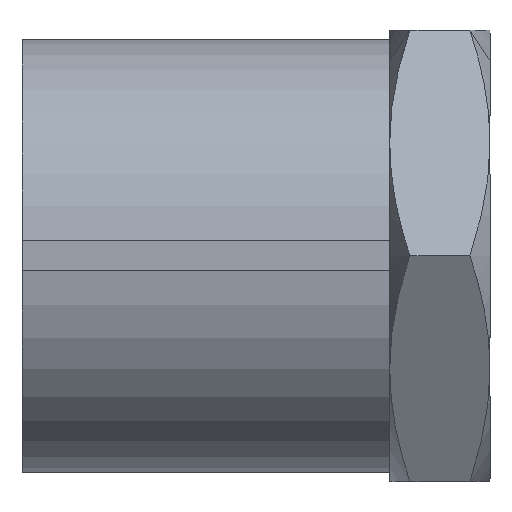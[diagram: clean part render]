
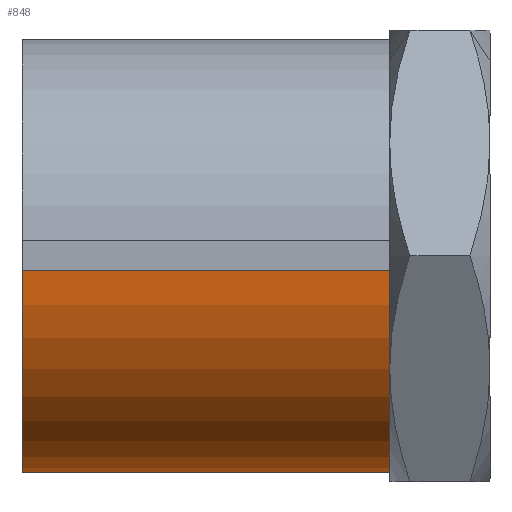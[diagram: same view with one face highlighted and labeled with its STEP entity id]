
A CAD part, top view. The second image highlights one B-rep face of the part: STEP entity #848.
In plain terms, the highlighted cylindrical face has radius 13 mm (diameter 26 mm), a partial arc.
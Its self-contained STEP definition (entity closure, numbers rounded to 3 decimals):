
#500=CARTESIAN_POINT('',(0.0,-0.9,12.969));
#501=VERTEX_POINT('',#500);
#502=CARTESIAN_POINT('',(-22.0,-0.9,12.969));
#503=VERTEX_POINT('',#502);
#504=CARTESIAN_POINT('',(0.0,-0.9,12.969));
#505=DIRECTION('',(-1.0,0.0,0.0));
#506=VECTOR('',#505,22.0);
#507=LINE('',#504,#506);
#508=EDGE_CURVE('',#501,#503,#507,.T.);
#642=CARTESIAN_POINT('',(-22.0,-12.969,0.9));
#643=VERTEX_POINT('',#642);
#644=CARTESIAN_POINT('',(0.0,-12.969,0.9));
#645=VERTEX_POINT('',#644);
#646=CARTESIAN_POINT('',(-22.0,-12.969,0.9));
#647=DIRECTION('',(1.0,0.0,0.0));
#648=VECTOR('',#647,22.0);
#649=LINE('',#646,#648);
#650=EDGE_CURVE('',#643,#645,#649,.T.);
#825=CARTESIAN_POINT('',(-23.1,0.0,0.0));
#826=DIRECTION('',(1.0,0.0,0.0));
#827=DIRECTION('',(0.0,1.0,0.0));
#828=AXIS2_PLACEMENT_3D('',#825,#826,#827);
#829=CYLINDRICAL_SURFACE('',#828,13.0);
#830=ORIENTED_EDGE('',*,*,#508,.T.);
#831=CARTESIAN_POINT('',(-22.0,0.0,0.0));
#832=DIRECTION('',(1.0,0.0,0.0));
#833=DIRECTION('',(0.0,1.0,0.0));
#834=AXIS2_PLACEMENT_3D('',#831,#832,#833);
#835=CIRCLE('',#834,13.0);
#836=EDGE_CURVE('',#503,#643,#835,.T.);
#837=ORIENTED_EDGE('',*,*,#836,.T.);
#838=ORIENTED_EDGE('',*,*,#650,.T.);
#839=CARTESIAN_POINT('',(0.0,0.0,0.0));
#840=DIRECTION('',(1.0,0.0,0.0));
#841=DIRECTION('',(0.0,1.0,0.0));
#842=AXIS2_PLACEMENT_3D('',#839,#840,#841);
#843=CIRCLE('',#842,13.0);
#844=EDGE_CURVE('',#501,#645,#843,.T.);
#845=ORIENTED_EDGE('',*,*,#844,.F.);
#846=EDGE_LOOP('',(#830,#837,#838,#845));
#847=FACE_OUTER_BOUND('',#846,.T.);
#848=ADVANCED_FACE('',(#847),#829,.T.);
